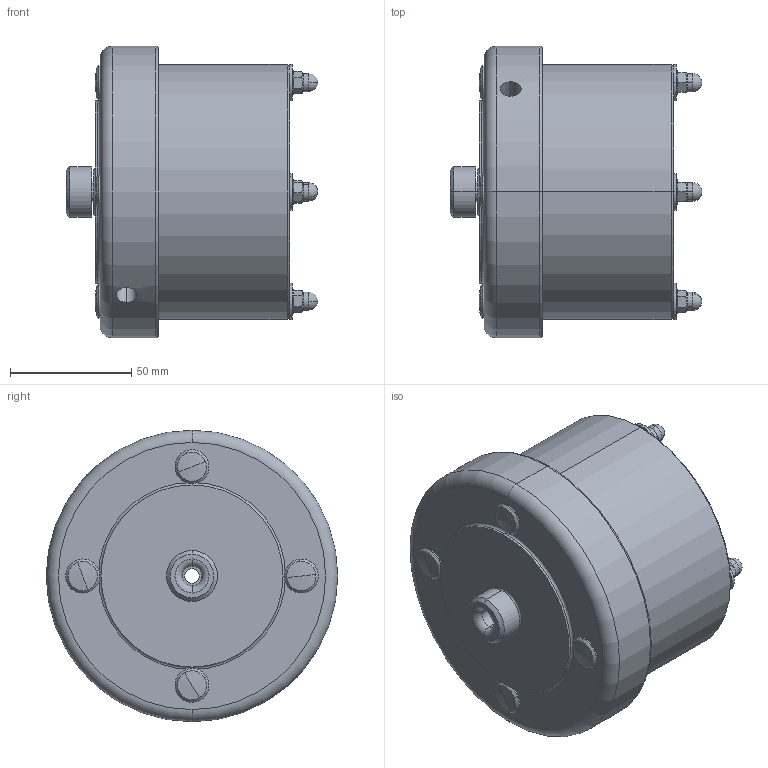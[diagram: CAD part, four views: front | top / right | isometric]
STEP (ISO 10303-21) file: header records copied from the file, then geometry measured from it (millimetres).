
FILE_DESCRIPTION (( 'STEP AP214' ), '1' );
FILE_NAME ('W-AT 15.STEP', '2019-04-25T08:16:52', ( '' ), ( '' ), 'SwSTEP 2.0', 'SolidWorks 2019', '' );
FILE_SCHEMA (( 'AUTOMOTIVE_DESIGN' ));
Length unit declared in the file: millimetre
Products named in the file (1): W-AT 15
Bounding box: 103.7 x 120 x 120 mm (x, y, z)
Surface area: 57012.6 mm2 (no closed solid volume)
Topology: 0 solids, 11 shells, 137 faces, 340 edges, 220 vertices
Faces by surface type: cylinder 50, plane 41, cone 20, sphere 16, torus 10
Entity records: 5950 total; most frequent: CARTESIAN_POINT 1102, DIRECTION 766, ORIENTED_EDGE 616, EDGE_CURVE 332, AXIS2_PLACEMENT_3D 324, VERTEX_POINT 220, CIRCLE 186, EDGE_LOOP 161
